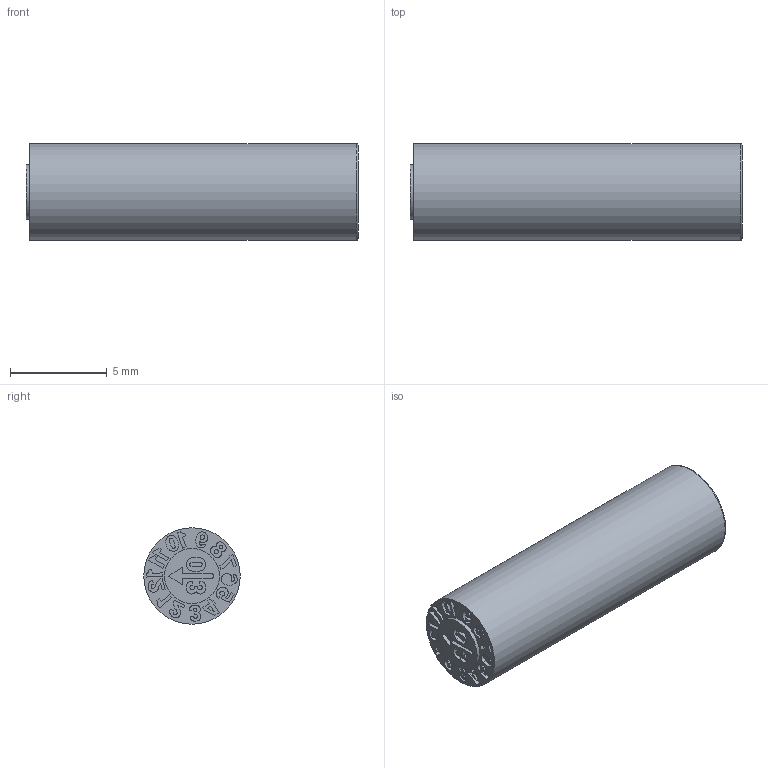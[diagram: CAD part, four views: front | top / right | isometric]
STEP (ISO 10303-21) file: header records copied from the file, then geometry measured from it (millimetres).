
FILE_DESCRIPTION( ( 'STEP AP203' ), ' ' );
FILE_NAME( 'p:/temp/worker_8/3892_2468/app_86_12017012413384730604972260eae72_000000_00_00_000000/format_0/YMN 05(0.2).stp', '2017-01-24T12:38:48', ( '' ), ( '' ), ' ', 'PARTsolutions', ' ' );
FILE_SCHEMA( ( 'CONFIG_CONTROL_DESIGN' ) );
Length unit declared in the file: millimetre
Products named in the file (3): YMN 05(0.2); _YMN 05(0.2)1; _YMN 05(0.2)2
Assembly tree (2 placements, depth 2):
  YMN 05(0.2)
    _YMN 05(0.2)1
    _YMN 05(0.2)2
Bounding box: 17.2 x 5 x 5 mm (x, y, z)
Volume: 293.7 mm3; surface area: 515.4 mm2
Topology: 2 solids, 2 shells, 219 faces, 560 edges, 372 vertices
Faces by surface type: plane 128, cylinder 87, cone 3, torus 1
Full cylindrical faces by diameter (mm): 0.185 x1, 0.228 x1, 1.383 x1, 1.6 x1, 2.459 x1, 2.85 x2, 5 x1
Entity records: 6712 total; most frequent: DIRECTION 1170, CARTESIAN_POINT 1142, ORIENTED_EDGE 1096, EDGE_CURVE 548, AXIS2_PLACEMENT_3D 400, VERTEX_POINT 372, LINE 370, VECTOR 370
